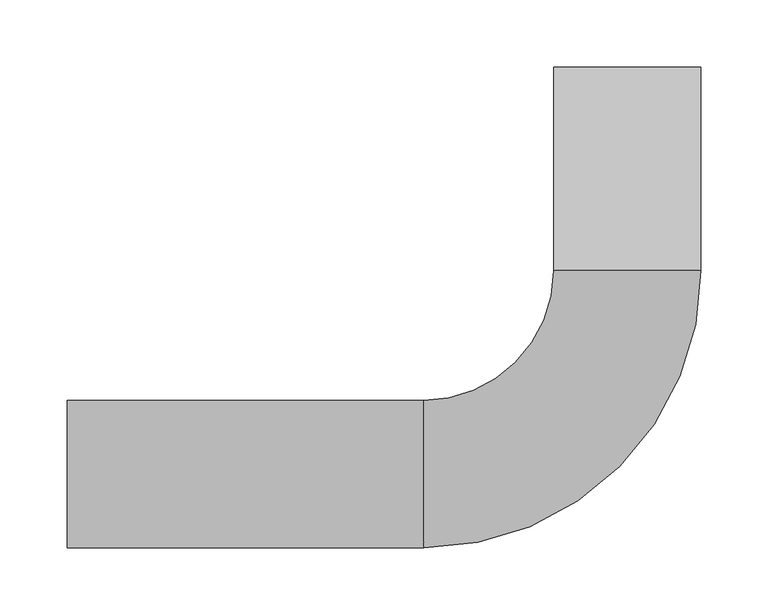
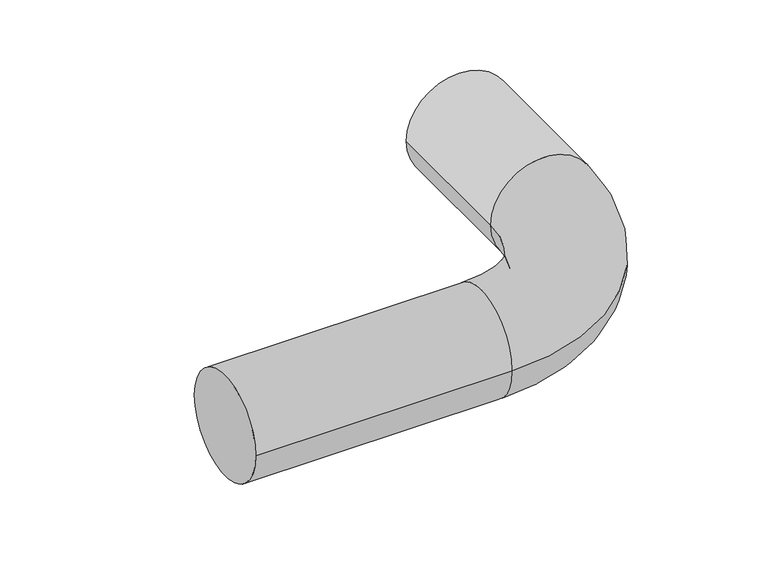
"""IFC4 building model written with IfcOpenShell, lengths in millimetres: pipe fitting geometry, NLRS_52_PIF_UN_PE BottomTurn bocht_geb : DN100 / ø110."""

from ifc_helpers import new_model, si_unit, point, frame, origin, place, context, project, spatial, circle_curve, ellipse_curve, trimmed, source, transform, mapped, element, save
from ifc_brep_helpers import plane_surface, cylinder_surface, revolved_surface, advanced_brep


def pipe_fitting_aa14bf3e(model_context):
    return source(origin(), model_context, "Body", "AdvancedBrep", [
        advanced_brep(
        [(-55.0, 152.0, 0.0), (-152.0, 55.0, 0.0), (-152.0, -55.0, 0.0), (55.0, 152.0, 0.0), (-418.0, -55.0, 0.0), (-418.0, 55.0, 0.0), (55.0, 304.0, 0.0), (-55.0, 304.0, 0.0)],
        [
            (0, 1, circle_curve(frame((-152.0, 152.0, 0.0), z_axis=(0.0, 0.0, -1.0), x_axis=(0.0, -1.0, 0.0)), 97.0)),
            (1, 2, circle_curve(frame((-152.0, 0.0, 0.0), z_axis=(1.0, 0.0, 0.0), x_axis=(0.0, 1.0, 0.0)), 55.0)),
            (2, 3, circle_curve(frame((-152.0, 152.0, 0.0), z_axis=(0.0, 0.0, 1.0), x_axis=(0.0, -1.0, 0.0)), 207.0)),
            (3, 0, circle_curve(frame((0.0, 152.0, 0.0), z_axis=(0.0, -1.0, 0.0), x_axis=(-1.0, 0.0, 0.0)), 55.0)),
            (2, 1, circle_curve(frame((-152.0, 0.0, 0.0), z_axis=(1.0, 0.0, 0.0), x_axis=(0.0, 1.0, 0.0)), 55.0)),
            (0, 3, circle_curve(frame((0.0, 152.0, 0.0), z_axis=(0.0, -1.0, 0.0), x_axis=(-1.0, 0.0, 0.0)), 55.0)),
            (4, 5, circle_curve(frame((-418.0, 0.0, 0.0), z_axis=(-1.0, 0.0, 0.0), x_axis=(0.0, 1.0, 0.0)), 55.0)),
            (5, 4, circle_curve(frame((-418.0, 0.0, 0.0), z_axis=(-1.0, 0.0, 0.0), x_axis=(0.0, 1.0, 0.0)), 55.0)),
            (4, 2),
            (1, 5),
            (6, 7, circle_curve(frame((0.0, 304.0, 0.0), z_axis=(0.0, 1.0, 0.0), x_axis=(-1.0, 0.0, 0.0)), 55.0)),
            (7, 6, circle_curve(frame((0.0, 304.0, 0.0), z_axis=(0.0, 1.0, 0.0), x_axis=(-1.0, 0.0, 0.0)), 55.0)),
            (3, 6),
            (7, 0),
        ],
        [
            revolved_surface(trimmed(ellipse_curve(frame((-152.0, 0.0, 0.0), z_axis=(-1.0, 0.0, 0.0), x_axis=(0.0, 1.0, 0.0)), 55.0, 55.0), [point((-152.0, -55.0, 0.0))], [point((-152.0, 55.0, 0.0))], True, "CARTESIAN"), (-152.0, 152.0, 0.0), (0.0, 0.0, 1.0)),
            revolved_surface(trimmed(ellipse_curve(frame((-152.0, 0.0, 0.0), z_axis=(-1.0, 0.0, 0.0), x_axis=(0.0, 1.0, 0.0)), 55.0, 55.0), [point((-152.0, 55.0, 0.0))], [point((-152.0, -55.0, 0.0))], True, "CARTESIAN"), (-152.0, 152.0, 0.0), (0.0, 0.0, 1.0)),
            plane_surface(frame((-418.0, 0.0, 0.0), z_axis=(-1.0, 0.0, 0.0), x_axis=(0.0, 0.0, 1.0))),
            cylinder_surface(frame((-418.0, 0.0, 0.0), z_axis=(-1.0, 0.0, 0.0), x_axis=(0.0, 1.0, 0.0)), 55.0),
            plane_surface(frame((0.0, 304.0, 0.0), z_axis=(0.0, 1.0, 0.0), x_axis=(0.0, 0.0, 1.0))),
            cylinder_surface(frame((0.0, 152.0, 0.0), z_axis=(0.0, -1.0, 0.0), x_axis=(-1.0, 0.0, 0.0)), 55.0),
        ],
        [
            (0, [[1, 2, 3, 4]]),
            (1, [[-3, 5, -1, 6]]),
            (2, [[7, 8]]),
            (3, [[-7, 9, -2, 10]]),
            (3, [[-8, -10, -5, -9]]),
            (4, [[11, 12]]),
            (5, [[-4, 13, -12, 14]]),
            (5, [[-6, -14, -11, -13]]),
        ],
    ),
    ])


if __name__ == "__main__":
    model = new_model("IFC4")
    model_context = context("Model", 3, world=origin())
    ifc_project = project(units=[si_unit("LENGTHUNIT", "METRE", prefix="MILLI")], contexts=[model_context])
    site = spatial("IfcSite", under=ifc_project)
    building = spatial("IfcBuilding", under=site)
    placement = place(None, origin())
    pipe_fitting_shape = pipe_fitting_aa14bf3e(model_context)
    element("IfcPipeFitting", 1, ObjectType="NLRS_52_PIF_UN_PE BottomTurn bocht_geb : DN100 / ø110", at=placement, inside=building, context=model_context, shape_type="MappedRepresentation", body=[
        mapped(pipe_fitting_shape, transform((0.0, 0.0, 0.0), x_axis=(1.0, 0.0, 0.0), y_axis=(0.0, 1.0, 0.0), z_axis=(0.0, 0.0, 1.0))),
    ])
    save(model, "model.ifc")
